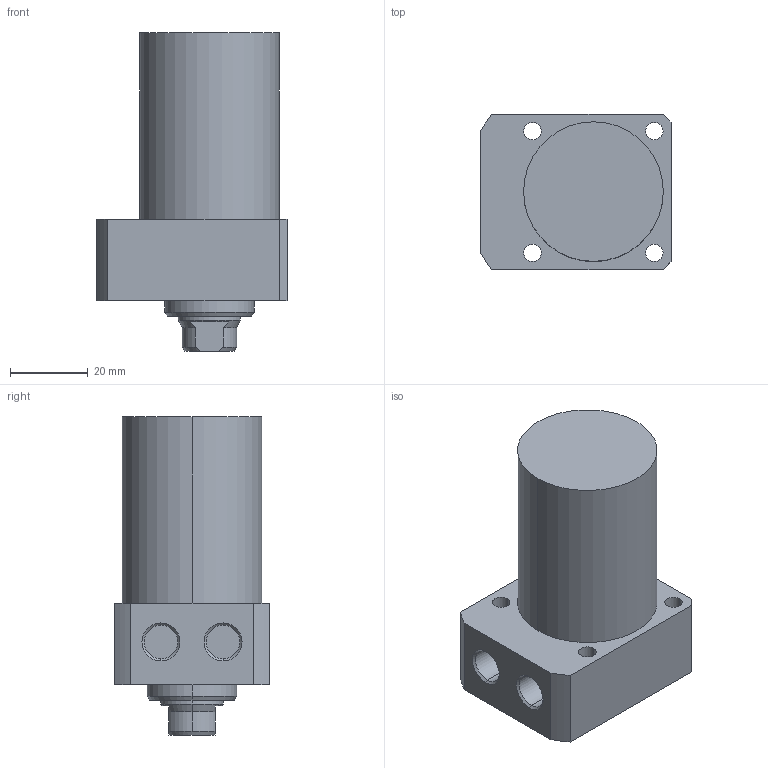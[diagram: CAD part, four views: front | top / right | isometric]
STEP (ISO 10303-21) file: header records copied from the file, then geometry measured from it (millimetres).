
FILE_DESCRIPTION (( 'STEP AP203' ), '1' );
FILE_NAME ('CLLR-036CA-040.STEP', '2019-12-20T00:31:43', ( '' ), ( '' ), 'SwSTEP 2.0', 'SolidWorks 2015', '' );
FILE_SCHEMA (( 'CONFIG_CONTROL_DESIGN' ));
Length unit declared in the file: millimetre
Products named in the file (1): CLLR-036CA-040
Bounding box: 49 x 40 x 82 mm (x, y, z)
Volume: 89561.7 mm3; surface area: 15508.5 mm2
Topology: 1 solids, 1 shells, 63 faces, 149 edges, 94 vertices
Faces by surface type: cylinder 29, plane 19, cone 15
Entity records: 1927 total; most frequent: DIRECTION 340, CARTESIAN_POINT 337, ORIENTED_EDGE 294, EDGE_CURVE 147, AXIS2_PLACEMENT_3D 137, VERTEX_POINT 94, EDGE_LOOP 79, CIRCLE 73
